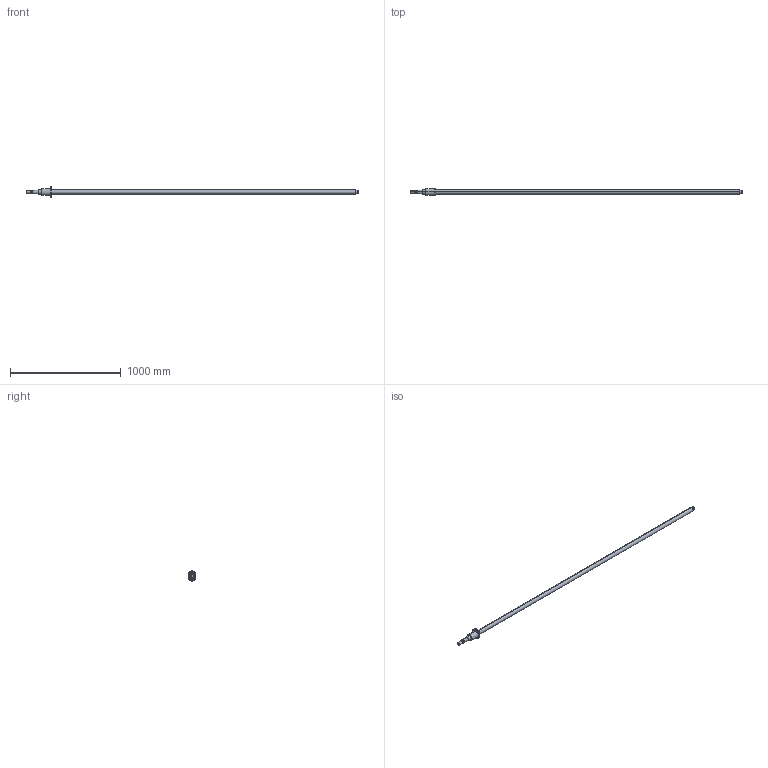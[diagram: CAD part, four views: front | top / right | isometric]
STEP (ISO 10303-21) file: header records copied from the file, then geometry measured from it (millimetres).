
FILE_DESCRIPTION (( 'STEP AP214' ), '1' );
FILE_NAME ('2.2131-SFU4010-3000mm.STEP', '2025-07-22T10:48:12', ( '' ), ( '' ), 'SwSTEP 2.0', 'SolidWorks 2024', '' );
FILE_SCHEMA (( 'AUTOMOTIVE_DESIGN' ));
Length unit declared in the file: millimetre
Products named in the file (3): 2.2131-SFU4010-3000mm; 2.2131 SFU4010-3000mm; 2.3021 Kuularuuvimutteri SFU4010-4
Assembly tree (2 placements, depth 2):
  2.2131-SFU4010-3000mm
    2.2131 SFU4010-3000mm
    2.3021 Kuularuuvimutteri SFU4010-4
Bounding box: 3000 x 70 x 93 mm (x, y, z)
Volume: 3889321.3 mm3; surface area: 421048.3 mm2
Topology: 3 solids, 3 shells, 118 faces, 302 edges, 199 vertices
Faces by surface type: cylinder 79, plane 22, bspline 10, cone 7
Entity records: 6835 total; most frequent: CARTESIAN_POINT 3975, ORIENTED_EDGE 604, DIRECTION 535, EDGE_CURVE 302, AXIS2_PLACEMENT_3D 217, VERTEX_POINT 199, EDGE_LOOP 147, FACE_OUTER_BOUND 118
